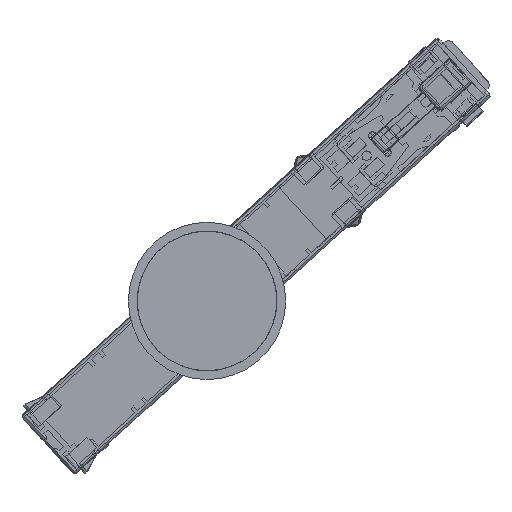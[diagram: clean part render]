
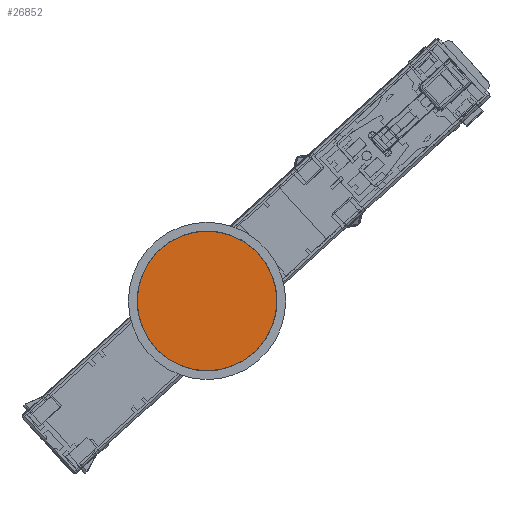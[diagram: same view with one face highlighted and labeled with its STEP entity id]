
A CAD part, front view. The second image highlights one B-rep face of the part: STEP entity #26852.
In plain terms, the highlighted planar face has unit normal (0, -1, 0).
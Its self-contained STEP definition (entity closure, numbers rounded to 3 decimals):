
#3903 = ORIENTED_EDGE ( 'NONE', *, *, #22490, .F. ) ;
#6818 = PLANE ( 'NONE',  #20125 ) ;
#9186 = CARTESIAN_POINT ( 'NONE',  ( 0., 1., 0. ) ) ;
#10019 = AXIS2_PLACEMENT_3D ( 'NONE', #54921, #33649, #32554 ) ;
#13287 = CARTESIAN_POINT ( 'NONE',  ( 0., 1., 14.18 ) ) ;
#20125 = AXIS2_PLACEMENT_3D ( 'NONE', #27814, #44843, #44588 ) ;
#20369 = CIRCLE ( 'NONE', #35565, 14.18 ) ;
#22490 = EDGE_CURVE ( 'NONE', #25598, #31877, #25210, .T. ) ;
#22615 = DIRECTION ( 'NONE',  ( 0., 1., 0. ) ) ;
#25210 = CIRCLE ( 'NONE', #10019, 14.18 ) ;
#25598 = VERTEX_POINT ( 'NONE', #50766 ) ;
#26852 = ADVANCED_FACE ( 'NONE', ( #27551 ), #6818, .F. ) ;
#27551 = FACE_OUTER_BOUND ( 'NONE', #46983, .T. ) ;
#27814 = CARTESIAN_POINT ( 'NONE',  ( 0., 1., 0. ) ) ;
#31877 = VERTEX_POINT ( 'NONE', #13287 ) ;
#32554 = DIRECTION ( 'NONE',  ( 0., 0., 1. ) ) ;
#33649 = DIRECTION ( 'NONE',  ( 0., 1., 0. ) ) ;
#34363 = DIRECTION ( 'NONE',  ( 0., 0., 1. ) ) ;
#35565 = AXIS2_PLACEMENT_3D ( 'NONE', #9186, #22615, #34363 ) ;
#44588 = DIRECTION ( 'NONE',  ( 0., 0., 1. ) ) ;
#44843 = DIRECTION ( 'NONE',  ( 0., 1., 0. ) ) ;
#46983 = EDGE_LOOP ( 'NONE', ( #3903, #51493 ) ) ;
#50766 = CARTESIAN_POINT ( 'NONE',  ( 0., 1., -14.18 ) ) ;
#50984 = EDGE_CURVE ( 'NONE', #31877, #25598, #20369, .T. ) ;
#51493 = ORIENTED_EDGE ( 'NONE', *, *, #50984, .F. ) ;
#54921 = CARTESIAN_POINT ( 'NONE',  ( 0., 1., 0. ) ) ;
